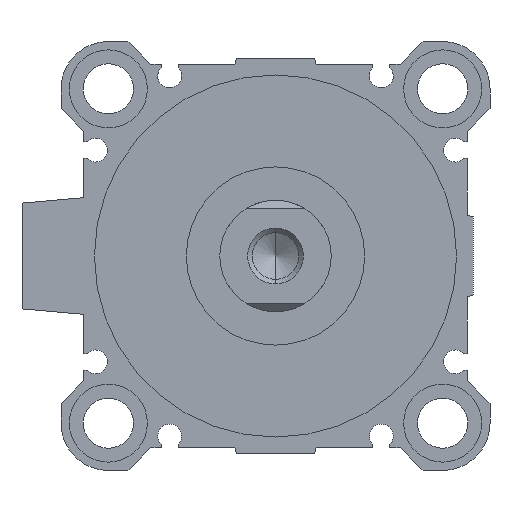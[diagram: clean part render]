
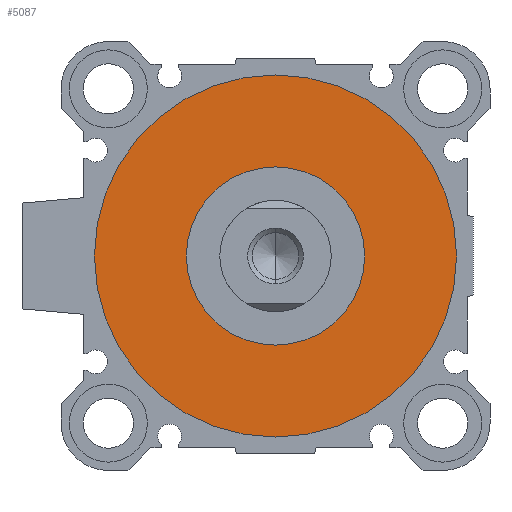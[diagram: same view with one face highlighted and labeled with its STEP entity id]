
A CAD part, left-side view. The second image highlights one B-rep face of the part: STEP entity #5087.
In plain terms, the highlighted planar face has unit normal (-1, 0, 0).
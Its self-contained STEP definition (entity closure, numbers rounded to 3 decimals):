
#197 = FACE_BOUND ( 'NONE', #285, .T. ) ;
#285 = EDGE_LOOP ( 'NONE', ( #1405, #1496 ) ) ;
#345 = CARTESIAN_POINT ( 'NONE',  ( 4., 0., -16. ) ) ;
#482 = CARTESIAN_POINT ( 'NONE',  ( 4., 0., 16. ) ) ;
#664 = ORIENTED_EDGE ( 'NONE', *, *, #3349, .F. ) ;
#1099 = CIRCLE ( 'NONE', #3442, 32.5 ) ;
#1188 = EDGE_CURVE ( 'NONE', #4272, #4890, #1850, .T. ) ;
#1405 = ORIENTED_EDGE ( 'NONE', *, *, #2176, .T. ) ;
#1454 = DIRECTION ( 'NONE',  ( 1., 0., 0. ) ) ;
#1496 = ORIENTED_EDGE ( 'NONE', *, *, #1188, .T. ) ;
#1640 = DIRECTION ( 'NONE',  ( 1., 0., 0. ) ) ;
#1689 = DIRECTION ( 'NONE',  ( 0., 0., -1. ) ) ;
#1850 = CIRCLE ( 'NONE', #5379, 16. ) ;
#1856 = PLANE ( 'NONE',  #3821 ) ;
#1870 = DIRECTION ( 'NONE',  ( 1., 0., 0. ) ) ;
#2051 = AXIS2_PLACEMENT_3D ( 'NONE', #4159, #1640, #3259 ) ;
#2176 = EDGE_CURVE ( 'NONE', #4890, #4272, #3557, .T. ) ;
#2604 = DIRECTION ( 'NONE',  ( 1., 0., 0. ) ) ;
#2748 = FACE_OUTER_BOUND ( 'NONE', #3597, .T. ) ;
#2847 = DIRECTION ( 'NONE',  ( 0., 0., -1. ) ) ;
#2982 = CARTESIAN_POINT ( 'NONE',  ( 4., 0., 0. ) ) ;
#3136 = CARTESIAN_POINT ( 'NONE',  ( 4., 0., 0. ) ) ;
#3222 = ORIENTED_EDGE ( 'NONE', *, *, #3283, .F. ) ;
#3259 = DIRECTION ( 'NONE',  ( 0., 0., -1. ) ) ;
#3283 = EDGE_CURVE ( 'NONE', #4188, #5027, #4665, .T. ) ;
#3349 = EDGE_CURVE ( 'NONE', #5027, #4188, #1099, .T. ) ;
#3442 = AXIS2_PLACEMENT_3D ( 'NONE', #2982, #2604, #1689 ) ;
#3557 = CIRCLE ( 'NONE', #4694, 16. ) ;
#3574 = DIRECTION ( 'NONE',  ( 1., 0., 0. ) ) ;
#3597 = EDGE_LOOP ( 'NONE', ( #3222, #664 ) ) ;
#3653 = DIRECTION ( 'NONE',  ( 0., 1., 0. ) ) ;
#3821 = AXIS2_PLACEMENT_3D ( 'NONE', #5215, #1454, #3653 ) ;
#4159 = CARTESIAN_POINT ( 'NONE',  ( 4., 0., 0. ) ) ;
#4188 = VERTEX_POINT ( 'NONE', #5401 ) ;
#4272 = VERTEX_POINT ( 'NONE', #345 ) ;
#4287 = DIRECTION ( 'NONE',  ( 0., 0., -1. ) ) ;
#4363 = CARTESIAN_POINT ( 'NONE',  ( 4., 0., -32.5 ) ) ;
#4665 = CIRCLE ( 'NONE', #2051, 32.5 ) ;
#4694 = AXIS2_PLACEMENT_3D ( 'NONE', #3136, #1870, #4287 ) ;
#4867 = CARTESIAN_POINT ( 'NONE',  ( 4., 0., 0. ) ) ;
#4890 = VERTEX_POINT ( 'NONE', #482 ) ;
#5027 = VERTEX_POINT ( 'NONE', #4363 ) ;
#5087 = ADVANCED_FACE ( 'NONE', ( #2748, #197 ), #1856, .F. ) ;
#5215 = CARTESIAN_POINT ( 'NONE',  ( 4., 0., 0. ) ) ;
#5379 = AXIS2_PLACEMENT_3D ( 'NONE', #4867, #3574, #2847 ) ;
#5401 = CARTESIAN_POINT ( 'NONE',  ( 4., 0., 32.5 ) ) ;
